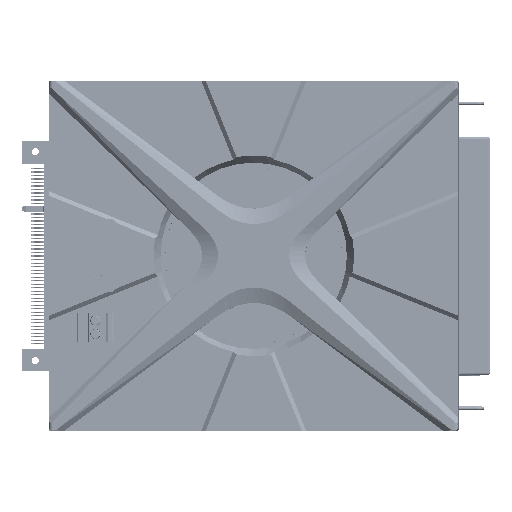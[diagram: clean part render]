
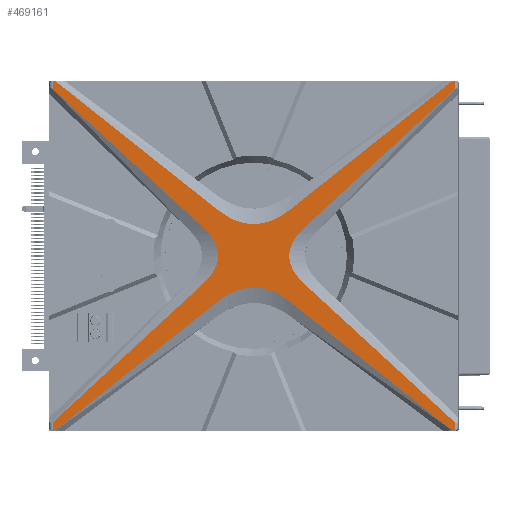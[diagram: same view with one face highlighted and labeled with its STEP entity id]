
A CAD part, top view. The second image highlights one B-rep face of the part: STEP entity #469161.
In plain terms, the highlighted planar face has unit normal (0, 0, 1).
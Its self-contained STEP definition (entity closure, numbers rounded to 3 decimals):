
#457198=CARTESIAN_POINT('',(-256.96,-49.825,70.5));
#457210=CARTESIAN_POINT('',(-142.24,-49.825,70.5));
#457316=CARTESIAN_POINT('',(-142.24,-47.504,70.5));
#457327=DIRECTION('',(0.736,-0.677,0.));
#457328=VECTOR('',#457327,58.09);
#457329=CARTESIAN_POINT('',(-185.,-8.184,70.5));
#457330=LINE('',#457329,#457328);
#457341=DIRECTION('',(0.,-1.,0.));
#457342=VECTOR('',#457341,2.321);
#457343=CARTESIAN_POINT('',(-256.96,-47.504,70.5));
#457344=LINE('',#457343,#457342);
#457345=DIRECTION('',(0.,-1.,0.));
#457346=VECTOR('',#457345,2.321);
#457347=CARTESIAN_POINT('',(-256.96,49.825,70.5));
#457348=LINE('',#457347,#457346);
#457349=DIRECTION('',(-1.,0.,0.));
#457350=VECTOR('',#457349,0.793);
#457351=CARTESIAN_POINT('',(-256.167,49.825,70.5));
#457352=LINE('',#457351,#457350);
#457353=DIRECTION('',(-1.,0.,0.));
#457354=VECTOR('',#457353,0.793);
#457355=CARTESIAN_POINT('',(-142.24,49.825,70.5));
#457356=LINE('',#457355,#457354);
#457357=DIRECTION('',(0.,1.,0.));
#457358=VECTOR('',#457357,2.321);
#457359=CARTESIAN_POINT('',(-142.24,47.504,70.5));
#457360=LINE('',#457359,#457358);
#457361=DIRECTION('',(0.,1.,0.));
#457362=VECTOR('',#457361,2.321);
#457363=CARTESIAN_POINT('',(-142.24,-49.825,70.5));
#457364=LINE('',#457363,#457362);
#457365=DIRECTION('',(-1.,0.,0.));
#457366=VECTOR('',#457365,0.793);
#457367=CARTESIAN_POINT('',(-142.24,-49.825,70.5));
#457368=LINE('',#457367,#457366);
#457369=DIRECTION('',(-1.,0.,0.));
#457370=VECTOR('',#457369,0.793);
#457371=CARTESIAN_POINT('',(-256.167,-49.825,70.5));
#457372=LINE('',#457371,#457370);
#457382=CARTESIAN_POINT('',(-256.96,-47.504,70.5));
#457398=DIRECTION('',(-0.736,-0.677,0.));
#457399=VECTOR('',#457398,58.09);
#457400=CARTESIAN_POINT('',(-214.2,-8.184,70.5));
#457401=LINE('',#457400,#457399);
#457432=CARTESIAN_POINT('',(-142.24,49.825,70.5));
#457444=CARTESIAN_POINT('',(-256.96,49.825,70.5));
#457876=CARTESIAN_POINT('',(-185.,8.184,70.5));
#457877=CARTESIAN_POINT('',(-187.928,5.491,70.5));
#457878=CARTESIAN_POINT('',(-190.972,0.,70.5));
#457879=CARTESIAN_POINT('',(-187.928,-5.491,70.5));
#457880=CARTESIAN_POINT('',(-185.,-8.184,70.5));
#457908=CARTESIAN_POINT('',(-142.24,47.504,70.5));
#457924=DIRECTION('',(-0.736,-0.677,0.));
#457925=VECTOR('',#457924,58.09);
#457926=CARTESIAN_POINT('',(-142.24,47.504,70.5));
#457927=LINE('',#457926,#457925);
#458165=CARTESIAN_POINT('',(-256.167,-49.825,70.5));
#458167=DIRECTION('',(0.783,0.622,0.));
#458168=VECTOR('',#458167,58.911);
#458169=CARTESIAN_POINT('',(-256.167,-49.825,70.5));
#458170=LINE('',#458169,#458168);
#458175=CARTESIAN_POINT('',(-210.024,-13.2,70.5));
#458176=CARTESIAN_POINT('',(-208.24,-11.784,70.5));
#458177=CARTESIAN_POINT('',(-204.741,-9.729,70.5));
#458178=CARTESIAN_POINT('',(-199.6,-8.73,70.5));
#458179=CARTESIAN_POINT('',(-194.459,-9.729,70.5));
#458180=CARTESIAN_POINT('',(-190.96,-11.784,70.5));
#458181=CARTESIAN_POINT('',(-189.176,-13.2,70.5));
#458195=CARTESIAN_POINT('',(-143.033,-49.825,70.5));
#458210=DIRECTION('',(0.783,-0.622,0.));
#458211=VECTOR('',#458210,58.911);
#458212=CARTESIAN_POINT('',(-189.176,-13.2,70.5));
#458213=LINE('',#458212,#458211);
#458251=CARTESIAN_POINT('',(-143.033,49.825,70.5));
#458258=DIRECTION('',(0.783,0.622,0.));
#458259=VECTOR('',#458258,58.911);
#458260=CARTESIAN_POINT('',(-189.176,13.2,70.5));
#458261=LINE('',#458260,#458259);
#458266=CARTESIAN_POINT('',(-210.024,13.2,70.5));
#458267=CARTESIAN_POINT('',(-208.24,11.784,70.5));
#458268=CARTESIAN_POINT('',(-204.741,9.729,70.5));
#458269=CARTESIAN_POINT('',(-199.6,8.73,70.5));
#458270=CARTESIAN_POINT('',(-194.459,9.729,70.5));
#458271=CARTESIAN_POINT('',(-190.96,11.784,70.5));
#458272=CARTESIAN_POINT('',(-189.176,13.2,70.5));
#458291=CARTESIAN_POINT('',(-256.167,49.825,70.5));
#458301=DIRECTION('',(0.783,-0.622,0.));
#458302=VECTOR('',#458301,58.911);
#458303=CARTESIAN_POINT('',(-256.167,49.825,70.5));
#458304=LINE('',#458303,#458302);
#458338=CARTESIAN_POINT('',(-256.96,47.504,70.5));
#458349=DIRECTION('',(0.736,-0.677,0.));
#458350=VECTOR('',#458349,58.09);
#458351=CARTESIAN_POINT('',(-256.96,47.504,70.5));
#458352=LINE('',#458351,#458350);
#458363=CARTESIAN_POINT('',(-214.2,8.184,70.5));
#458364=CARTESIAN_POINT('',(-211.272,5.491,70.5));
#458365=CARTESIAN_POINT('',(-208.228,0.,70.5));
#458366=CARTESIAN_POINT('',(-211.272,-5.491,70.5));
#458367=CARTESIAN_POINT('',(-214.2,-8.184,70.5));
#459439=VERTEX_POINT('',#457876);
#459440=VERTEX_POINT('',#457880);
#459445=VERTEX_POINT('',#458266);
#459446=VERTEX_POINT('',#458272);
#459451=VERTEX_POINT('',#458363);
#459452=VERTEX_POINT('',#458367);
#459457=VERTEX_POINT('',#458175);
#459458=VERTEX_POINT('',#458181);
#459488=VERTEX_POINT('',#458291);
#459489=VERTEX_POINT('',#458251);
#459491=VERTEX_POINT('',#458195);
#459494=VERTEX_POINT('',#458165);
#460795=VERTEX_POINT('',#457198);
#460801=VERTEX_POINT('',#457382);
#460802=VERTEX_POINT('',#457316);
#460807=VERTEX_POINT('',#457210);
#460808=VERTEX_POINT('',#457432);
#460814=VERTEX_POINT('',#457908);
#460815=VERTEX_POINT('',#458338);
#460820=VERTEX_POINT('',#457444);
#469119=CARTESIAN_POINT('',(0.,0.,70.5));
#469120=DIRECTION('',(0.,0.,1.));
#469121=DIRECTION('',(1.,0.,0.));
#469122=AXIS2_PLACEMENT_3D('',#469119,#469120,#469121);
#469123=PLANE('',#469122);
#469124=ORIENTED_EDGE('',*,*,#468889,.F.);
#469126=ORIENTED_EDGE('',*,*,#469125,.F.);
#469128=ORIENTED_EDGE('',*,*,#469127,.F.);
#469130=ORIENTED_EDGE('',*,*,#469129,.F.);
#469132=ORIENTED_EDGE('',*,*,#469131,.F.);
#469134=ORIENTED_EDGE('',*,*,#469133,.F.);
#469136=ORIENTED_EDGE('',*,*,#469135,.T.);
#469138=ORIENTED_EDGE('',*,*,#469137,.T.);
#469140=ORIENTED_EDGE('',*,*,#469139,.T.);
#469142=ORIENTED_EDGE('',*,*,#469141,.F.);
#469144=ORIENTED_EDGE('',*,*,#469143,.F.);
#469146=ORIENTED_EDGE('',*,*,#469145,.T.);
#469148=ORIENTED_EDGE('',*,*,#469147,.T.);
#469149=ORIENTED_EDGE('',*,*,#469108,.T.);
#469150=ORIENTED_EDGE('',*,*,#469077,.F.);
#469151=ORIENTED_EDGE('',*,*,#468864,.T.);
#469153=ORIENTED_EDGE('',*,*,#469152,.F.);
#469155=ORIENTED_EDGE('',*,*,#469154,.F.);
#469157=ORIENTED_EDGE('',*,*,#469156,.F.);
#469158=ORIENTED_EDGE('',*,*,#468846,.T.);
#469159=EDGE_LOOP('',(#469124,#469126,#469128,#469130,#469132,#469134,#469136,
#469138,#469140,#469142,#469144,#469146,#469148,#469149,#469150,#469151,#469153,
#469155,#469157,#469158));
#469160=FACE_OUTER_BOUND('',#469159,.F.);
#457881=B_SPLINE_CURVE_WITH_KNOTS('',3,(#457876,#457877,#457878,#457879,
#457880),.UNSPECIFIED.,.F.,.F.,(4,1,4),(0.,0.5,1.),.UNSPECIFIED.);
#458182=B_SPLINE_CURVE_WITH_KNOTS('',3,(#458175,#458176,#458177,#458178,#458179,
#458180,#458181),.UNSPECIFIED.,.F.,.F.,(4,1,1,1,4),(0.,0.25,0.5,0.75,
1.),.UNSPECIFIED.);
#458273=B_SPLINE_CURVE_WITH_KNOTS('',3,(#458266,#458267,#458268,#458269,#458270,
#458271,#458272),.UNSPECIFIED.,.F.,.F.,(4,1,1,1,4),(0.,0.25,0.5,0.75,
1.),.UNSPECIFIED.);
#458368=B_SPLINE_CURVE_WITH_KNOTS('',3,(#458363,#458364,#458365,#458366,
#458367),.UNSPECIFIED.,.F.,.F.,(4,1,4),(0.,0.5,1.),.UNSPECIFIED.);
#468846=EDGE_CURVE('',#459494,#460795,#457372,.T.);
#468864=EDGE_CURVE('',#460807,#459491,#457368,.T.);
#468889=EDGE_CURVE('',#460801,#460795,#457344,.T.);
#469077=EDGE_CURVE('',#460807,#460802,#457364,.T.);
#469108=EDGE_CURVE('',#459440,#460802,#457330,.T.);
#469125=EDGE_CURVE('',#459452,#460801,#457401,.T.);
#469127=EDGE_CURVE('',#459451,#459452,#458368,.T.);
#469129=EDGE_CURVE('',#460815,#459451,#458352,.T.);
#469131=EDGE_CURVE('',#460820,#460815,#457348,.T.);
#469133=EDGE_CURVE('',#459488,#460820,#457352,.T.);
#469135=EDGE_CURVE('',#459488,#459445,#458304,.T.);
#469137=EDGE_CURVE('',#459445,#459446,#458273,.T.);
#469139=EDGE_CURVE('',#459446,#459489,#458261,.T.);
#469141=EDGE_CURVE('',#460808,#459489,#457356,.T.);
#469143=EDGE_CURVE('',#460814,#460808,#457360,.T.);
#469145=EDGE_CURVE('',#460814,#459439,#457927,.T.);
#469147=EDGE_CURVE('',#459439,#459440,#457881,.T.);
#469152=EDGE_CURVE('',#459458,#459491,#458213,.T.);
#469154=EDGE_CURVE('',#459457,#459458,#458182,.T.);
#469156=EDGE_CURVE('',#459494,#459457,#458170,.T.);
#469161=ADVANCED_FACE('',(#469160),#469123,.T.);
